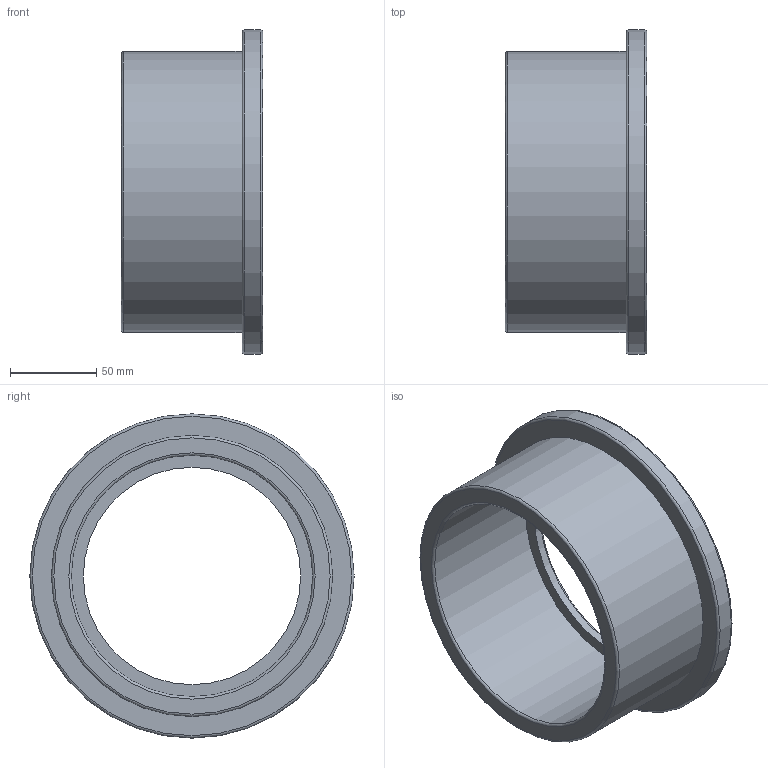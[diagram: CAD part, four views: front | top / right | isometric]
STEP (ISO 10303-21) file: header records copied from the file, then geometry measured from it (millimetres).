
FILE_DESCRIPTION(/* description */ ('PLASSON FLANGE FLAT AD.-CEM 140'),/* implementation_level */ '2;1');
FILE_NAME(/* name */ 'C:\Dropbox\KIMPROJECTS-Inventor\99-16-3568-Processing\PVC Catalog 2017\26_09_18\055100\055100140.ipt.stp',/* time_stamp */ '2018-09-27T11:50:58+03:00',/* author */ ('KIM'),/* organization */ (''),/* preprocessor_version */ 'ST-DEVELOPER v15.6',/* originating_system */ 'Autodesk Inventor 2015',/* authorisation */ '');
FILE_SCHEMA (('AUTOMOTIVE_DESIGN { 1 0 10303 214 3 1 1 }'));
Length unit declared in the file: millimetre
Products named in the file (1): 055100140
Bounding box: 82 x 188 x 188 mm (x, y, z)
Volume: 548010.5 mm3; surface area: 107794.4 mm2
Topology: 1 solids, 1 shells, 13 faces, 22 edges, 13 vertices
Faces by surface type: torus 5, cylinder 4, plane 4
Full cylindrical faces by diameter (mm): 126 x1, 140 x1, 163 x1, 188 x1
Entity records: 292 total; most frequent: DIRECTION 54, CARTESIAN_POINT 40, AXIS2_PLACEMENT_3D 27, EDGE_LOOP 26, ORIENTED_EDGE 26, FACE_BOUND 13, FACE_OUTER_BOUND 13, CIRCLE 13
